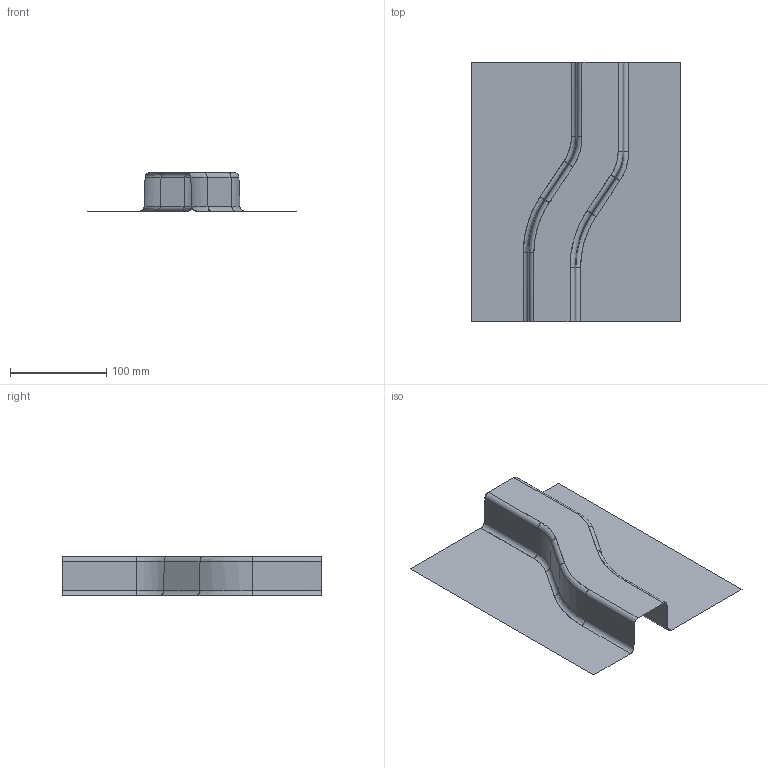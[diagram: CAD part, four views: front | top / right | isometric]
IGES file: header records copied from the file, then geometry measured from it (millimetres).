
Start section: START IGES DATA FILE
Global section: file name: srail.igs; native system: DYNAFORM VER.5.2,DYNAFORM IGES TRANSLATOR, ENGINEERING TECHNOLOGY ASSOCIATES, INC.; preprocessor: 980406; date: 051229.150143; units: millimetre
Bounding box: 218 x 270.01 x 40 mm (x, y, z)
Surface area: 78454.8 mm2 (no closed solid volume)
Topology: 0 solids, 0 shells, 33 faces, 234 edges, 238 vertices
Faces by surface type: bspline 33
